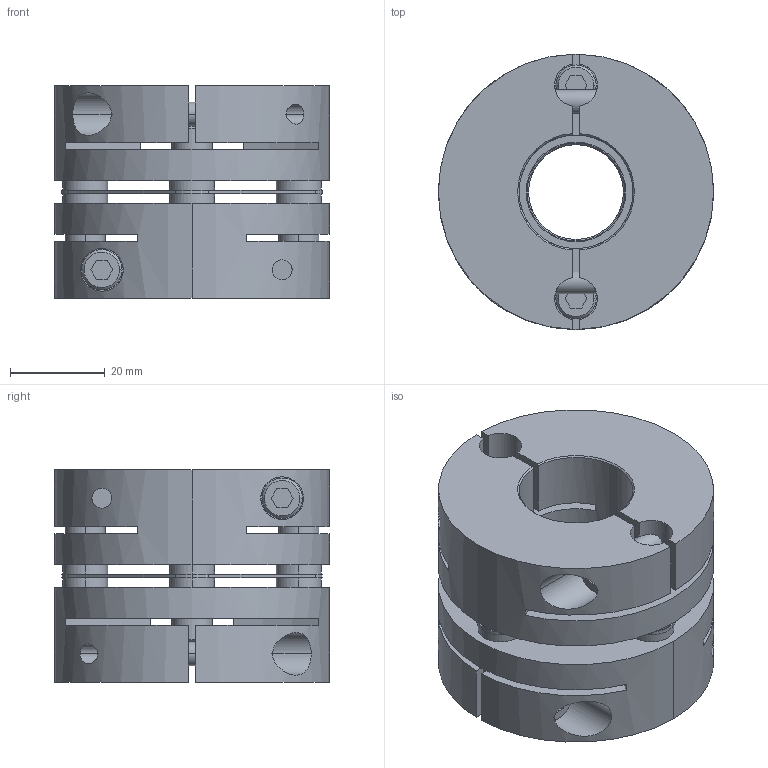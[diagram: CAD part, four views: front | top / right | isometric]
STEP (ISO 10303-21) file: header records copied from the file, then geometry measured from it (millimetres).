
FILE_DESCRIPTION((''),'2;1');
FILE_NAME('LAS-58C-20×24.stp','2011-08-09T15:37:14',(''),(''),'AutoCAD STEP 2000i','AutoCAD 2000i',', , ');
FILE_SCHEMA(('CONFIG_CONTROL_DESIGN'));
Length unit declared in the file: millimetre
Products named in the file (7): LAS-58C-19×19; 忣兜1; LA-5802-D19-1; LA-5802-D19; LA-5802-D12-1; LA-5802-D12; LAS58-ITA
Assembly tree (6 placements, depth 2):
  LAS-58C-19×19
    忣兜1
    LA-5802-D19-1
    LA-5802-D19
    LA-5802-D12-1
    LA-5802-D12
    LAS58-ITA
Bounding box: 58 x 58 x 44.8 mm (x, y, z)
Volume: 82341.6 mm3; surface area: 32315.7 mm2
Topology: 1 solids, 1 shells, 240 faces, 636 edges, 416 vertices
Faces by surface type: plane 116, cylinder 96, cone 28
Entity records: 8567 total; most frequent: CARTESIAN_POINT 2199, DIRECTION 1338, ORIENTED_EDGE 1280, EDGE_CURVE 640, AXIS2_PLACEMENT_3D 491, VERTEX_POINT 416, VECTOR 356, LINE 356
